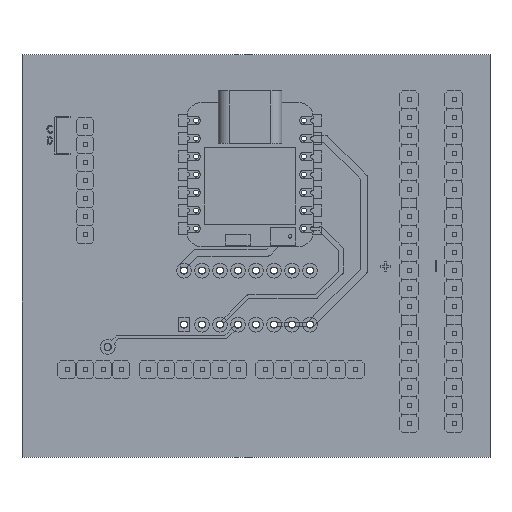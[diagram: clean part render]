
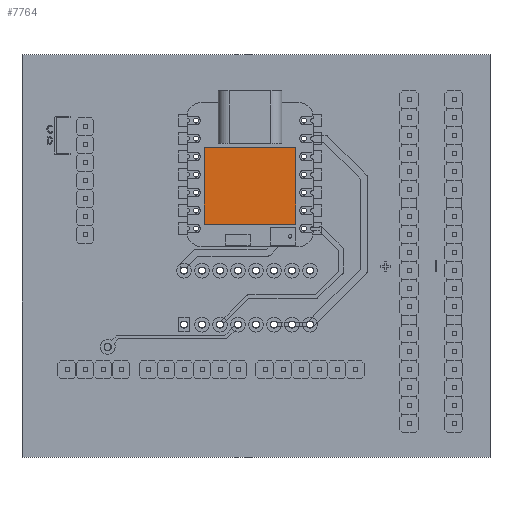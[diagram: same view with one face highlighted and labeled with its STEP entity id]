
A CAD part, top view. The second image highlights one B-rep face of the part: STEP entity #7764.
In plain terms, the highlighted planar face has unit normal (0, 0, 1).
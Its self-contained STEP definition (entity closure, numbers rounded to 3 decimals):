
#7635 = VERTEX_POINT('',#7636);
#7636 = CARTESIAN_POINT('',(-6.425,7.01,3.));
#7642 = EDGE_CURVE('',#7635,#7643,#7645,.T.);
#7643 = VERTEX_POINT('',#7644);
#7644 = CARTESIAN_POINT('',(-6.425,-3.84,3.));
#7645 = LINE('',#7646,#7647);
#7646 = CARTESIAN_POINT('',(-6.425,7.01,3.));
#7647 = VECTOR('',#7648,1.);
#7648 = DIRECTION('',(0.,-1.,0.));
#7673 = EDGE_CURVE('',#7643,#7674,#7676,.T.);
#7674 = VERTEX_POINT('',#7675);
#7675 = CARTESIAN_POINT('',(6.425,-3.84,3.));
#7676 = LINE('',#7677,#7678);
#7677 = CARTESIAN_POINT('',(-6.425,-3.84,3.));
#7678 = VECTOR('',#7679,1.);
#7679 = DIRECTION('',(1.,0.,0.));
#7704 = EDGE_CURVE('',#7674,#7705,#7707,.T.);
#7705 = VERTEX_POINT('',#7706);
#7706 = CARTESIAN_POINT('',(6.425,7.01,3.));
#7707 = LINE('',#7708,#7709);
#7708 = CARTESIAN_POINT('',(6.425,-3.84,3.));
#7709 = VECTOR('',#7710,1.);
#7710 = DIRECTION('',(0.,1.,0.));
#7735 = EDGE_CURVE('',#7705,#7635,#7736,.T.);
#7736 = LINE('',#7737,#7738);
#7737 = CARTESIAN_POINT('',(6.425,7.01,3.));
#7738 = VECTOR('',#7739,1.);
#7739 = DIRECTION('',(-1.,0.,0.));
#7764 = ADVANCED_FACE('',(#7765),#7771,.T.);
#7765 = FACE_BOUND('',#7766,.T.);
#7766 = EDGE_LOOP('',(#7767,#7768,#7769,#7770));
#7767 = ORIENTED_EDGE('',*,*,#7642,.T.);
#7768 = ORIENTED_EDGE('',*,*,#7673,.T.);
#7769 = ORIENTED_EDGE('',*,*,#7704,.T.);
#7770 = ORIENTED_EDGE('',*,*,#7735,.T.);
#7771 = PLANE('',#7772);
#7772 = AXIS2_PLACEMENT_3D('',#7773,#7774,#7775);
#7773 = CARTESIAN_POINT('',(0.,1.585,3.));
#7774 = DIRECTION('',(0.,0.,1.));
#7775 = DIRECTION('',(1.,0.,-0.));
